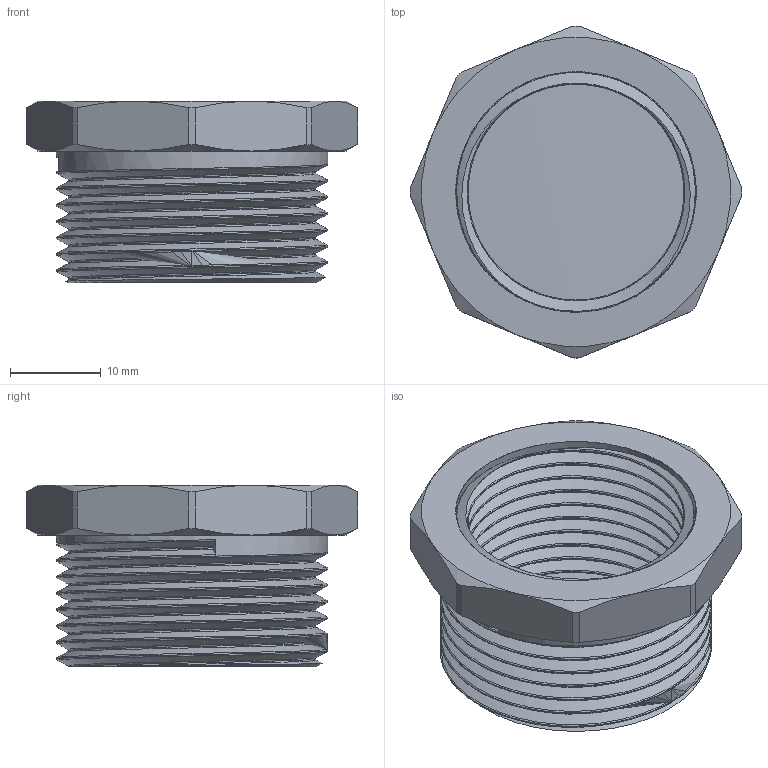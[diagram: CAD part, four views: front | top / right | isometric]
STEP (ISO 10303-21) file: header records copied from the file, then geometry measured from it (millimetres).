
FILE_DESCRIPTION(/* description */ (''),/* implementation_level */ '2;1');
FILE_NAME(/* name */ 'C:\Users\Doom\Desktop\Фадотех\Резьба\PF02 18.03.2020\PF02 18.03.2020.stp',/* time_stamp */ '2022-01-13T23:26:02+02:00',/* author */ ('Doom'),/* organization */ (''),/* preprocessor_version */ 'ST-DEVELOPER v18',/* originating_system */ 'Autodesk Inventor 2020',/* authorisation */ '');
FILE_SCHEMA (('AUTOMOTIVE_DESIGN { 1 0 10303 214 3 1 1 }'));
Length unit declared in the file: millimetre
Products named in the file (1): PF02 18.03.2020
Bounding box: 36.5 x 36.5 x 20 mm (x, y, z)
Volume: 6559 mm3; surface area: 13083.9 mm2
Topology: 3 solids, 3 shells, 79 faces, 207 edges, 133 vertices
Faces by surface type: cylinder 34, cone 17, plane 16, bspline 12
Full cylindrical faces by diameter (mm): 23.75 x12, 26.44 x2, 27.151 x2, 29.841 x7
Entity records: 12030 total; most frequent: CARTESIAN_POINT 10272, ORIENTED_EDGE 406, DIRECTION 296, EDGE_CURVE 203, VERTEX_POINT 131, AXIS2_PLACEMENT_3D 126, EDGE_LOOP 86, FACE_OUTER_BOUND 79
